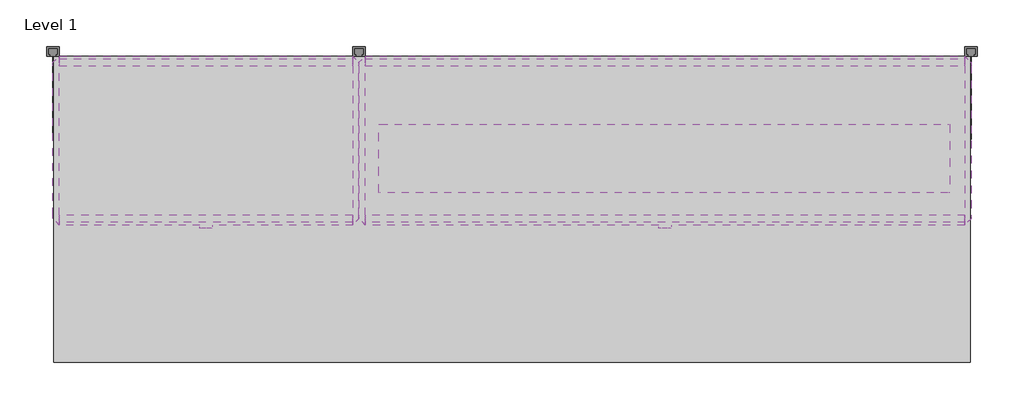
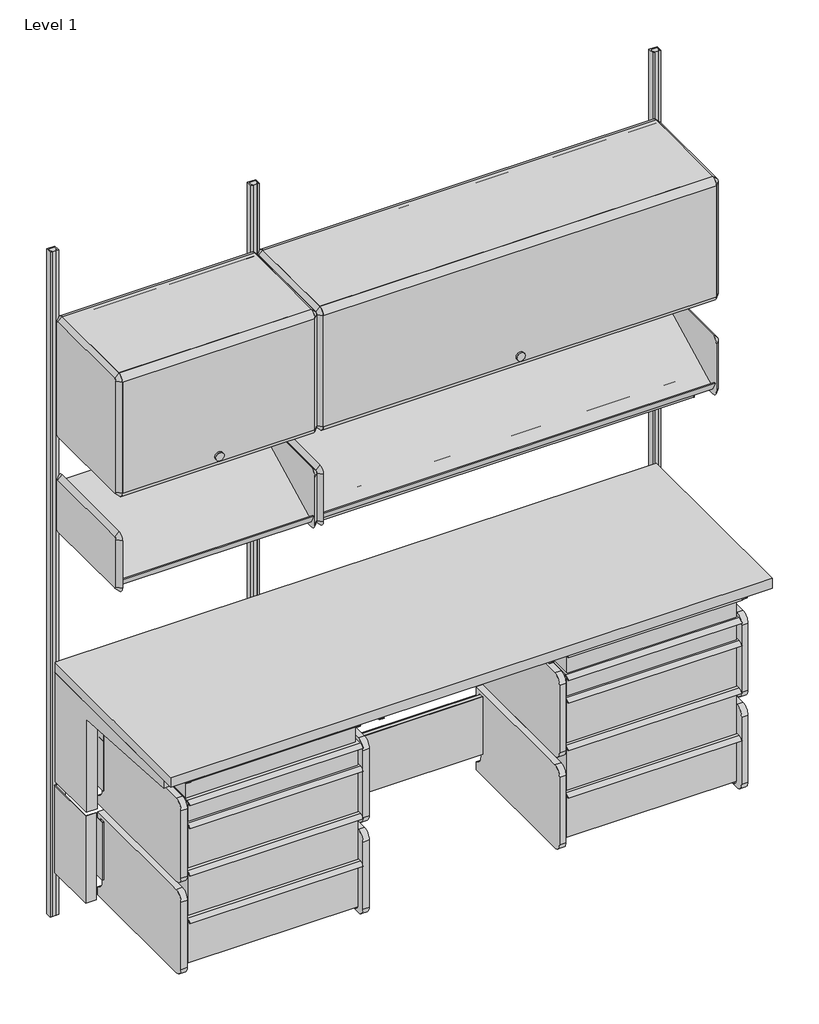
# One storey: 26 furniture elements, 1 light fixture.
"""IFC4 building model written with IfcOpenShell, lengths in millimetres."""

from ifc_helpers import new_model, si_unit, origin, place, context, project, spatial, transform, mapped, element, save
from components import furniture_04291885, furniture_439dfb7c, furniture_42ff5c24, furniture_56be9a9d, furniture_dda152d5, furniture_3c95d147, furniture_88dc2ca2, furniture_03e73c74, furniture_82778d6f, furniture_ebb16344, furniture_fa600c10, furniture_8d228605, furniture_ea425779, a_3_959e08d9, a_3_3943aac6, b_6_f3207868, b_6_2be62e06, b_6_bdab6ed6, light_fixture_48w_for_action_office_09e55f13

model = new_model("IFC4")

# Units and contexts
model_context = context("Model", 3, world=origin())
ifc_project = project(units=[si_unit("LENGTHUNIT", "METRE", prefix="MILLI")], contexts=[model_context])

# Site, building, storey
site = spatial("IfcSite", under=ifc_project)
building = spatial("IfcBuilding", under=site)
storey = spatial("IfcBuildingStorey", under=building, Name="Level 1", Elevation=0.0)

# Furniture
placement = place(None, origin())
furniture_shape = furniture_04291885(model_context)
element("IfcFurniture", 1, ObjectType="HermanMiller_CoStruc_C2141_Heavy-DutyWorkSurface : 24\"D x 72\"W Lam", at=placement, inside=storey, context=model_context, shape_type="MappedRepresentation", body=[
    mapped(furniture_shape, transform((304.8, -196.85, 0.0), x_axis=(1.0, 0.0, 0.0), y_axis=(0.0, 1.0, 0.0), z_axis=(0.0, 0.0, 1.0))),
])
furniture_2_shape = furniture_439dfb7c(model_context)
element("IfcFurniture", 2, ObjectType="HermanMiller_ActionOffice_A3220_B-StyleStorageDisplay : Display 13\"D x 48\"W", at=placement, inside=storey, context=model_context, shape_type="MappedRepresentation", body=[
    mapped(furniture_2_shape, transform((1343.1420045, -200.025, 0.0), x_axis=(1.0, 0.0, 0.0), y_axis=(0.0, 1.0, 0.0), z_axis=(0.0, 0.0, 1.0))),
])
furniture_3_shape = furniture_42ff5c24(model_context)
element("IfcFurniture", 3, ObjectType="HermanMiller_CoStruc_CO205_CFrame : 10\"H x 17\"D x 22\"W", at=placement, inside=storey, context=model_context, shape_type="MappedRepresentation", body=[
    mapped(furniture_3_shape, transform((228.8437151, -262.0663197, 0.0), x_axis=(1.0, 0.0, 0.0), y_axis=(0.0, 1.0, 0.0), z_axis=(0.0, 0.0, 1.0))),
])
furniture_4_shape = furniture_56be9a9d(model_context)
element("IfcFurniture", 4, ObjectType="HermanMiller_CoStruc_CO205_CFrame : 10\"H x 17\"D x 22\"W", at=placement, inside=storey, context=model_context, shape_type="MappedRepresentation", body=[
    mapped(furniture_4_shape, transform((228.8437151, -262.0663197, 0.0), x_axis=(1.0, 0.0, 0.0), y_axis=(0.0, 1.0, 0.0), z_axis=(0.0, 0.0, 1.0))),
])
element("IfcFurniture", 5, ObjectType="HermanMiller_CoStruc_CO205_CFrame : 10\"H x 17\"D x 22\"W", at=placement, inside=storey, context=model_context, shape_type="MappedRepresentation", body=[
    mapped(furniture_4_shape, transform((1378.1937151, -262.0663197, 0.0), x_axis=(1.0, 0.0, 0.0), y_axis=(0.0, 1.0, 0.0), z_axis=(0.0, 0.0, 1.0))),
])
furniture_5_shape = furniture_dda152d5(model_context)
element("IfcFurniture", 6, ObjectType="HermanMiller_CoStruc_CO205_CFrame : 10\"H x 17\"D x 22\"W", at=placement, inside=storey, context=model_context, shape_type="MappedRepresentation", body=[
    mapped(furniture_5_shape, transform((1378.1937151, -262.0663197, 0.0), x_axis=(1.0, 0.0, 0.0), y_axis=(0.0, 1.0, 0.0), z_axis=(0.0, 0.0, 1.0))),
])
furniture_6_shape = furniture_3c95d147(model_context)
element("IfcFurniture", 7, ObjectType="HermanMiller_CoStruc_C2192_CFrameSupport : 11\"H x 24\"D x 72\"W", at=placement, inside=storey, context=model_context, shape_type="MappedRepresentation", body=[
    mapped(furniture_6_shape, transform((914.4, 107.15625, 0.0), x_axis=(1.0, 0.0, 0.0), y_axis=(0.0, 1.0, 0.0), z_axis=(0.0, 0.0, 1.0))),
])
furniture_7_shape = furniture_88dc2ca2(model_context)
element("IfcFurniture", 8, ObjectType="HermanMiller_CoStruc_C2140W_WorkSurfaceSupport_ComponentAdaptor : 14\"H x 24\"D x 72\"W", at=placement, inside=storey, context=model_context, shape_type="MappedRepresentation", body=[
    mapped(furniture_7_shape, transform((914.4, -196.85, 0.0), x_axis=(1.0, 0.0, 0.0), y_axis=(0.0, 1.0, 0.0), z_axis=(0.0, 0.0, 1.0))),
])
furniture_8_shape = furniture_03e73c74(model_context)
element("IfcFurniture", 9, ObjectType="HermanMiller_ActionOffice_A3220_B-StyleStorageDisplay : Display 13\"D x 24\"W", at=placement, inside=storey, context=model_context, shape_type="MappedRepresentation", body=[
    mapped(furniture_8_shape, transform((428.7420045, -200.025, 0.0), x_axis=(1.0, 0.0, 0.0), y_axis=(0.0, 1.0, 0.0), z_axis=(0.0, 0.0, 1.0))),
])
furniture_9_shape = furniture_82778d6f(model_context)
element("IfcFurniture", 10, ObjectType="HermanMiller_ActionOffice_B-StyleFlipperDoor : Paint 15-1/2H x 13D x 24W", at=placement, inside=storey, context=model_context, shape_type="MappedRepresentation", body=[
    mapped(furniture_9_shape, transform((304.8, -200.025, 457.2), x_axis=(1.0, 0.0, 0.0), y_axis=(0.0, 1.0, 0.0), z_axis=(0.0, 0.0, 1.0))),
])
furniture_10_shape = furniture_ebb16344(model_context)
element("IfcFurniture", 11, ObjectType="HermanMiller_ActionOffice_B-StyleFlipperDoor : Paint 15-1/2H x 13D x 48W", at=placement, inside=storey, context=model_context, shape_type="MappedRepresentation", body=[
    mapped(furniture_10_shape, transform((1219.2, -200.025, 457.2), x_axis=(1.0, 0.0, 0.0), y_axis=(0.0, 1.0, 0.0), z_axis=(0.0, 0.0, 1.0))),
])
furniture_11_shape = furniture_fa600c10(model_context)
element("IfcFurniture", 12, ObjectType="HermanMiller_CoStruc_B-StyleShelf : 15-1/2H x 13D x 24W", at=placement, inside=storey, context=model_context, shape_type="MappedRepresentation", body=[
    mapped(furniture_11_shape, transform((428.7420045, -200.025, 457.2), x_axis=(1.0, 0.0, 0.0), y_axis=(0.0, 1.0, 0.0), z_axis=(0.0, 0.0, 1.0))),
])
furniture_12_shape = furniture_8d228605(model_context)
element("IfcFurniture", 13, ObjectType="HermanMiller_CoStruc_B-StyleShelf : 15-1/2H x 13D x 48W", at=placement, inside=storey, context=model_context, shape_type="MappedRepresentation", body=[
    mapped(furniture_12_shape, transform((1343.1420045, -200.025, 457.2), x_axis=(1.0, 0.0, 0.0), y_axis=(0.0, 1.0, 0.0), z_axis=(0.0, 0.0, 1.0))),
])
furniture_13_shape = furniture_ea425779(model_context)
element("IfcFurniture", 14, ObjectType="HermanMiller_ActionOffice_AO213_WallStrip : 84\"H", at=placement, inside=storey, context=model_context, shape_type="MappedRepresentation", body=[
    mapped(furniture_13_shape, transform((1828.8, 0.0200145, 0.0), x_axis=(1.0, 0.0, 0.0), y_axis=(0.0, 1.0, 0.0), z_axis=(0.0, 0.0, 1.0))),
])
element("IfcFurniture", 15, ObjectType="HermanMiller_ActionOffice_AO213_WallStrip : 84\"H", at=placement, inside=storey, context=model_context, shape_type="MappedRepresentation", body=[
    mapped(furniture_13_shape, transform((609.6, 0.0, 0.0), x_axis=(1.0, 0.0, 0.0), y_axis=(0.0, 1.0, 0.0), z_axis=(0.0, 0.0, 1.0))),
])
element("IfcFurniture", 16, ObjectType="HermanMiller_ActionOffice_AO213_WallStrip : 84\"H", at=placement, inside=storey, context=model_context, shape_type="MappedRepresentation", body=[
    mapped(furniture_13_shape, transform((0.0, 0.0, 0.0), x_axis=(1.0, 0.0, 0.0), y_axis=(0.0, 1.0, 0.0), z_axis=(0.0, 0.0, 1.0))),
])
a_3_shape = a_3_959e08d9(model_context)
element("IfcFurniture", 17, ObjectType="HermanMiller_CoStruc_CO207_Drawer : A - 3", at=placement, inside=storey, context=model_context, shape_type="MappedRepresentation", body=[
    mapped(a_3_shape, transform((328.4638717, -423.88282, 0.0), x_axis=(1.0, 0.0, 0.0), y_axis=(0.0, 1.0, 0.0), z_axis=(0.0, 0.0, 1.0))),
])
element("IfcFurniture", 18, ObjectType="HermanMiller_CoStruc_CO207_Drawer : A - 3", at=placement, inside=storey, context=model_context, shape_type="MappedRepresentation", body=[
    mapped(a_3_shape, transform((1477.8138717, -423.88282, 0.0), x_axis=(1.0, 0.0, 0.0), y_axis=(0.0, 1.0, 0.0), z_axis=(0.0, 0.0, 1.0))),
])
a_3_2_shape = a_3_3943aac6(model_context)
element("IfcFurniture", 19, ObjectType="HermanMiller_CoStruc_CO207_Drawer : A - 3", at=placement, inside=storey, context=model_context, shape_type="MappedRepresentation", body=[
    mapped(a_3_2_shape, transform((323.7140717, -418.63518, 0.0), x_axis=(1.0, 0.0, 0.0), y_axis=(0.0, 1.0, 0.0), z_axis=(0.0, 0.0, 1.0))),
])
element("IfcFurniture", 20, ObjectType="HermanMiller_CoStruc_CO207_Drawer : A - 3", at=placement, inside=storey, context=model_context, shape_type="MappedRepresentation", body=[
    mapped(a_3_2_shape, transform((1477.8138717, -423.88282, 0.0), x_axis=(1.0, 0.0, 0.0), y_axis=(0.0, 1.0, 0.0), z_axis=(0.0, 0.0, 1.0))),
])
b_6_shape = b_6_f3207868(model_context)
element("IfcFurniture", 21, ObjectType="HermanMiller_CoStruc_CO207_Drawer : B - 6", at=placement, inside=storey, context=model_context, shape_type="MappedRepresentation", body=[
    mapped(b_6_shape, transform((328.4638717, -423.88282, 0.0), x_axis=(1.0, 0.0, 0.0), y_axis=(0.0, 1.0, 0.0), z_axis=(0.0, 0.0, 1.0))),
])
element("IfcFurniture", 22, ObjectType="HermanMiller_CoStruc_CO207_Drawer : B - 6", at=placement, inside=storey, context=model_context, shape_type="MappedRepresentation", body=[
    mapped(b_6_shape, transform((1477.8138717, -423.88282, 0.0), x_axis=(1.0, 0.0, 0.0), y_axis=(0.0, 1.0, 0.0), z_axis=(0.0, 0.0, 1.0))),
])
b_6_2_shape = b_6_2be62e06(model_context)
element("IfcFurniture", 23, ObjectType="HermanMiller_CoStruc_CO207_Drawer : B - 6", at=placement, inside=storey, context=model_context, shape_type="MappedRepresentation", body=[
    mapped(b_6_2_shape, transform((328.4638717, -423.88282, 0.0), x_axis=(1.0, 0.0, 0.0), y_axis=(0.0, 1.0, 0.0), z_axis=(0.0, 0.0, 1.0))),
])
element("IfcFurniture", 24, ObjectType="HermanMiller_CoStruc_CO207_Drawer : B - 6", at=placement, inside=storey, context=model_context, shape_type="MappedRepresentation", body=[
    mapped(b_6_2_shape, transform((1477.8138717, -423.88282, 0.0), x_axis=(1.0, 0.0, 0.0), y_axis=(0.0, 1.0, 0.0), z_axis=(0.0, 0.0, 1.0))),
])
b_6_3_shape = b_6_bdab6ed6(model_context)
element("IfcFurniture", 25, ObjectType="HermanMiller_CoStruc_CO207_Drawer : B - 6", at=placement, inside=storey, context=model_context, shape_type="MappedRepresentation", body=[
    mapped(b_6_3_shape, transform((328.4638717, -423.88282, 0.0), x_axis=(1.0, 0.0, 0.0), y_axis=(0.0, 1.0, 0.0), z_axis=(0.0, 0.0, 1.0))),
])
element("IfcFurniture", 26, ObjectType="HermanMiller_CoStruc_CO207_Drawer : B - 6", at=placement, inside=storey, context=model_context, shape_type="MappedRepresentation", body=[
    mapped(b_6_3_shape, transform((1477.8138717, -423.88282, 0.0), x_axis=(1.0, 0.0, 0.0), y_axis=(0.0, 1.0, 0.0), z_axis=(0.0, 0.0, 1.0))),
])

# Light fixture
light_fixture_48w_for_action_office_shape = light_fixture_48w_for_action_office_09e55f13(model_context)
element("IfcLightFixture", 27, ObjectType="HermanMiller_SupplementalProducts_G6170_EUnderShelfLEDTaskLight : 48W for Action Office", at=placement, inside=storey, context=model_context, shape_type="MappedRepresentation", body=[
    mapped(light_fixture_48w_for_action_office_shape, transform((1217.54392, -222.81896, 124.8679666), x_axis=(1.0, 0.0, 0.0), y_axis=(0.0, 1.0, 0.0), z_axis=(0.0, 0.0, 1.0))),
])

save(model, "model.ifc")
